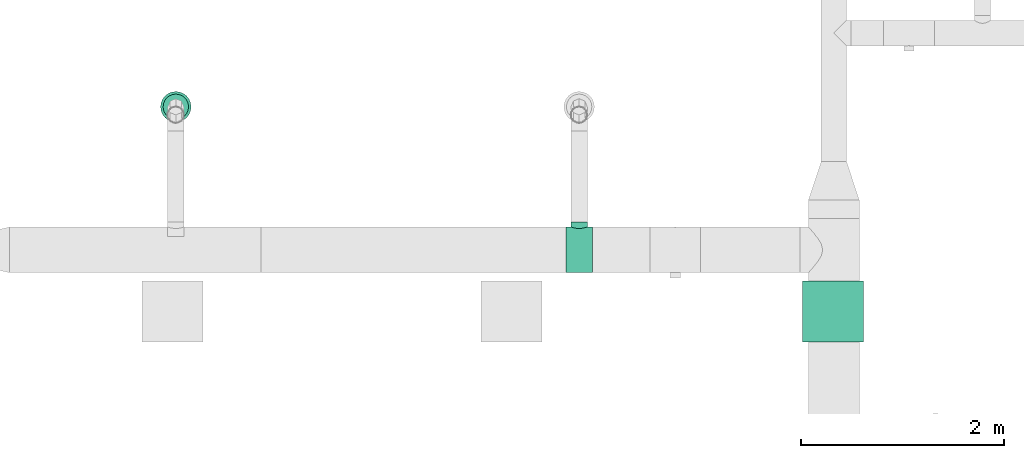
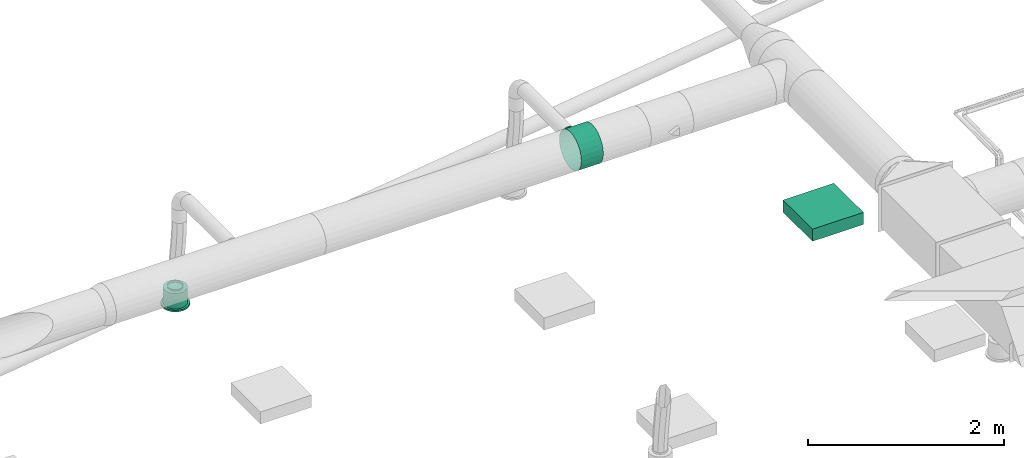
# One storey, part 164 of 374: 1 distribution element, 1 flow fitting, 1 flow terminal.
"""IFC2X3 building model written with IfcOpenShell, lengths in metres."""

import ifcopenshell
import ifcopenshell.guid

model = None  # the IFC model being written
_history = None  # IfcOwnerHistory: only IFC2X3 demands one
_inside = {}  # id of a spatial element -> (the spatial element, [elements in it])
_under = {}  # id of a project, library or spatial element -> (it, [spatial elements below it])
_declared = {}  # id of a project -> (the project, [libraries it declares])
_typed = {}  # id of a type object -> (the type object, [elements of that type])
_made_of = {}  # id of a material, layer set ... -> (it, [elements and type objects made of it])


def new_model(schema):
    """Start an empty IFC model of exactly this schema.

    Asked for "IFC4X3", IfcOpenShell would pick the latest addendum, in which some entities
    have other attributes; the version numbers below select the first issue.
    IFC2X3 requires an IfcOwnerHistory on every rooted entity: one is made here for all.
    """
    global model, _history
    if schema == "IFC4X3":
        model = ifcopenshell.file(schema_version=(4, 3, 0, 0))
    else:
        model = ifcopenshell.file(schema=schema)
    _inside.clear()
    _under.clear()
    _declared.clear()
    _typed.clear()
    _made_of.clear()
    _history = None
    if model.schema == "IFC2X3":
        org = make("IfcOrganization", Name="unknown")
        user = make(
            "IfcPersonAndOrganization",
            ThePerson=make("IfcPerson", FamilyName="unknown"),
            TheOrganization=org,
        )
        app = make(
            "IfcApplication",
            ApplicationDeveloper=org,
            Version="unknown",
            ApplicationFullName="unknown",
            ApplicationIdentifier="unknown",
        )
        _history = make(
            "IfcOwnerHistory",
            OwningUser=user,
            OwningApplication=app,
            ChangeAction="ADDED",
            CreationDate=0,
        )
    return model


def make(cls, **values):
    """One entity of the class cls with the attributes given. An attribute that is None is left unset."""
    return model.create_entity(
        cls, **{name: value for name, value in values.items() if value is not None}
    )


def rooted(cls, **values):
    """An entity with a GlobalId (a new one), such as an element, a storey or a relation."""
    return make(cls, GlobalId=ifcopenshell.guid.new(), OwnerHistory=_history, **values)


def si_unit(unit_type, name, prefix=None):
    """IfcSIUnit, for example si_unit("LENGTHUNIT", "METRE", prefix="MILLI")."""
    return make("IfcSIUnit", UnitType=unit_type, Prefix=prefix, Name=name)


def assignment(units):
    """IfcUnitAssignment: the units of a project."""
    return None if units is None else make("IfcUnitAssignment", Units=units)


def point(xyz):
    """IfcCartesianPoint."""
    return None if xyz is None else make("IfcCartesianPoint", Coordinates=xyz)


def direction(xyz):
    """IfcDirection."""
    return None if xyz is None else make("IfcDirection", DirectionRatios=xyz)


def frame(location, z_axis=None, x_axis=None):
    """IfcAxis2Placement3D, a coordinate frame: its origin and axes. An axis left out is left unset."""
    return make(
        "IfcAxis2Placement3D",
        Location=point(location),
        Axis=direction(z_axis),
        RefDirection=direction(x_axis),
    )


def frame_2d(location, x_axis=None):
    """IfcAxis2Placement2D, a coordinate frame in the plane: its origin and x axis."""
    return make(
        "IfcAxis2Placement2D", Location=point(location), RefDirection=direction(x_axis)
    )


def origin():
    """The frame at (0, 0, 0) with its axes left unset."""
    return frame((0.0, 0.0, 0.0))


def place(relative_to, where):
    """IfcLocalPlacement: puts the frame where relative to a parent placement (None: the world)."""
    return make(
        "IfcLocalPlacement", PlacementRelTo=relative_to, RelativePlacement=where
    )


def context(
    kind, dimensions, precision=None, world=None, true_north=None, identifier=None
):
    """IfcGeometricRepresentationContext, for example the 3D "Model" context."""
    return make(
        "IfcGeometricRepresentationContext",
        ContextIdentifier=identifier,
        ContextType=kind,
        CoordinateSpaceDimension=dimensions,
        Precision=precision,
        WorldCoordinateSystem=world,
        TrueNorth=true_north,
    )


def subcontext(parent, identifier, kind, view, scale=None):
    """IfcGeometricRepresentationSubContext, for example "Body" below "Model"."""
    return make(
        "IfcGeometricRepresentationSubContext",
        ContextIdentifier=identifier,
        ContextType=kind,
        ParentContext=parent,
        TargetScale=scale,
        TargetView=view,
    )


def project(units=None, contexts=None):
    """IfcProject with its units and contexts."""
    return rooted(
        "IfcProject",
        Name="project",
        RepresentationContexts=contexts,
        UnitsInContext=assignment(units),
    )


def spatial(cls, under=None, at=None, **own):
    """A site, building, storey or space (cls), placed at a placement, below another one or the project."""
    s = rooted(cls, ObjectPlacement=at, **own)
    if under is not None:
        _under.setdefault(under.id(), (under, []))[1].append(s)
    return s


def profile(cls, at=None, kind="AREA", **sizes):
    """A parametric profile (cls). Its sizes go by their IFC names, for example OverallWidth=200.0."""
    return make(cls, ProfileType=kind, Position=at, **sizes)


def rectangle(**sizes):
    """IfcRectangleProfileDef."""
    return profile("IfcRectangleProfileDef", **sizes)


def extrude(swept, where, along, depth):
    """IfcExtrudedAreaSolid: the profile swept, set in the frame where, extruded along a direction by depth."""
    return make(
        "IfcExtrudedAreaSolid",
        SweptArea=swept,
        Position=where,
        ExtrudedDirection=direction(along),
        Depth=depth,
    )


def faces_of(points, faces, orient=None, outer=None):
    """IfcFace entities. A face is a list of loops; a loop is a list of indices into points, from 0.

    orient and outer hold one flag for each loop. By default every Orientation is true, the
    first loop of a face is its IfcFaceOuterBound and the others are IfcFaceBound.
    """
    made = []
    for i, loops in enumerate(faces):
        bounds = []
        for j, loop in enumerate(loops):
            is_outer = j == 0 if outer is None else outer[i][j]
            bounds.append(
                make(
                    "IfcFaceOuterBound" if is_outer else "IfcFaceBound",
                    Bound=make("IfcPolyLoop", Polygon=[points[k] for k in loop]),
                    Orientation=True if orient is None else orient[i][j],
                )
            )
        made.append(make("IfcFace", Bounds=bounds))
    return made


def open_shell(faces, orient=None, outer=None):
    """The faces of one IfcOpenShell. surface_model builds it on its shared points."""
    return ("IfcOpenShell", faces, orient, outer)


def surface_model(cls, points, shells):
    """IfcFaceBasedSurfaceModel or IfcShellBasedSurfaceModel (cls): surfaces that need not close."""
    shared = [point(p) for p in points]
    made = [make(c, CfsFaces=faces_of(shared, fs, o, b)) for c, fs, o, b in shells]
    if cls == "IfcFaceBasedSurfaceModel":
        return make(cls, FbsmFaces=made)
    return make(cls, SbsmBoundary=made)


def shape(context_of_items, identifier, shape_type, items):
    """IfcShapeRepresentation: the items that make up one representation, for example the "Body"."""
    return make(
        "IfcShapeRepresentation",
        ContextOfItems=context_of_items,
        RepresentationIdentifier=identifier,
        RepresentationType=shape_type,
        Items=items,
    )


def source(mapping_origin, context_of_items, identifier, shape_type, items):
    """IfcRepresentationMap: a shape defined once, which mapped items show again and again."""
    return make(
        "IfcRepresentationMap",
        MappingOrigin=mapping_origin,
        MappedRepresentation=shape(context_of_items, identifier, shape_type, items),
    )


def transform(
    local_origin,
    x_axis=None,
    y_axis=None,
    z_axis=None,
    scale=None,
    scale2=None,
    scale3=None,
    uniform=True,
):
    """IfcCartesianTransformationOperator3D, or its non-uniform kind. x_axis, y_axis, z_axis: its Axis1, 2, 3."""
    if uniform:
        return make(
            "IfcCartesianTransformationOperator3D",
            Axis1=direction(x_axis),
            Axis2=direction(y_axis),
            LocalOrigin=point(local_origin),
            Scale=scale,
            Axis3=direction(z_axis),
        )
    return make(
        "IfcCartesianTransformationOperator3DnonUniform",
        Axis1=direction(x_axis),
        Axis2=direction(y_axis),
        LocalOrigin=point(local_origin),
        Scale=scale,
        Axis3=direction(z_axis),
        Scale2=scale2,
        Scale3=scale3,
    )


def mapped(mapping_source, mapping_target):
    """IfcMappedItem: shows the shape of a source again, moved by a transform."""
    return make(
        "IfcMappedItem", MappingSource=mapping_source, MappingTarget=mapping_target
    )


def made_of(thing, what):
    """Note that an element or type object is made of a material, layer set ...; save() writes the relation."""
    if what is not None:
        _made_of.setdefault(what.id(), (what, []))[1].append(thing)
    return thing


def element(
    cls,
    number,
    at=None,
    inside=None,
    cuts=None,
    type_object=None,
    material=None,
    context=None,
    identifier="Body",
    shape_type=None,
    held_by="IfcProductDefinitionShape",
    body=None,
    shapes=None,
    **own,
):
    """One element of the class cls, such as IfcWall. Its Tag is "e" and its number.

    at: its placement. inside: the storey or other place that contains it. cuts: it is an
    opening in that element (IfcRelVoidsElement). A single representation is given by context,
    identifier, shape_type and body (its items); several are given by shapes. held_by: the class
    of the entity that holds the representations. save() writes the other relations.
    """
    e = rooted(cls, Tag="e%d" % number, ObjectPlacement=at, **own)
    if body is not None:
        shapes = [shape(context, identifier, shape_type, body)]
    if shapes is not None:
        e.Representation = make(held_by, Representations=shapes)
    if inside is not None:
        _inside.setdefault(inside.id(), (inside, []))[1].append(e)
    if cuts is not None:
        rooted(
            "IfcRelVoidsElement", RelatingBuildingElement=cuts, RelatedOpeningElement=e
        )
    if type_object is not None:
        _typed.setdefault(type_object.id(), (type_object, []))[1].append(e)
    return made_of(e, material)


def aggregate(whole, parts):
    """IfcRelAggregates: a whole, such as a stair, and the parts it consists of."""
    return rooted("IfcRelAggregates", RelatingObject=whole, RelatedObjects=parts)


def save(model, path):
    """Write the relations noted so far, then the file.

    IfcRelAggregates (storeys below a building ...), IfcRelContainedInSpatialStructure (elements
    in a storey), IfcRelDefinesByType, IfcRelAssociatesMaterial and IfcRelDeclares: one each for
    every whole, place, type object, material and project.
    """
    for whole, parts in _under.values():
        aggregate(whole, parts)
    for where, things in _inside.values():
        rooted(
            "IfcRelContainedInSpatialStructure",
            RelatedElements=things,
            RelatingStructure=where,
        )
    for kind, things in _typed.values():
        rooted("IfcRelDefinesByType", RelatedObjects=things, RelatingType=kind)
    for what, things in _made_of.values():
        rooted("IfcRelAssociatesMaterial", RelatedObjects=things, RelatingMaterial=what)
    for by, libraries in _declared.values():
        rooted("IfcRelDeclares", RelatingContext=by, RelatedDefinitions=libraries)
    model.write(path)


model = new_model("IFC2X3")

# Units and contexts
model_context = context("Model", 3, precision=1e-05, world=origin(), true_north=direction((-0.4480736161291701, 0.8939966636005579)))
body_context = subcontext(model_context, "Body", "Model", "MODEL_VIEW")
ifc_project = project(units=[si_unit("LENGTHUNIT", "METRE"), si_unit("AREAUNIT", "SQUARE_METRE"), si_unit("VOLUMEUNIT", "CUBIC_METRE"), si_unit("PLANEANGLEUNIT", "RADIAN"), si_unit("THERMODYNAMICTEMPERATUREUNIT", "KELVIN"), si_unit("MASSUNIT", "GRAM", prefix="KILO"), si_unit("TIMEUNIT", "SECOND")], contexts=[model_context])

# Site, building, storey
site_placement = place(None, origin())
site = spatial("IfcSite", under=ifc_project, at=site_placement, Name="Site 1", CompositionType="ELEMENT")
building_placement = place(site_placement, origin())
building = spatial("IfcBuilding", under=site, at=building_placement, Name="Undefined", CompositionType="ELEMENT")
storey_placement = place(building_placement, origin())
storey = spatial("IfcBuildingStorey", under=building, at=storey_placement, Name="Rez de chauss\x8ee", CompositionType="ELEMENT", Elevation=0.0)

# Flow terminal
shared_shape_1 = source(origin(), body_context, "Body", "SurfaceModel", [
    surface_model("IfcFaceBasedSurfaceModel", [(0.0, 0.0, 0.0), (0.03915785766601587, 0.0, 0.0), (0.03915785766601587, 0.020000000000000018, 0.0), (3.552713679e-15, 0.020000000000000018, 0.0), (0.07698144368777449, 0.0, -0.010134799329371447), (0.07698144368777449, 0.020000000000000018, -0.010134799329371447), (0.11089314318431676, 0.0, -0.02971372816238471), (0.11089314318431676, 0.020000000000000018, -0.02971372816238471), (0.13858192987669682, 0.0, -0.05740251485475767), (0.13858192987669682, 0.020000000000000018, -0.05740251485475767), (0.15816085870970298, 0.0, -0.09131421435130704), (0.15816085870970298, 0.020000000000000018, -0.09131421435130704), (0.16829565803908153, 0.0, -0.12913780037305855), (0.16829565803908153, 0.020000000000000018, -0.12913780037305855), (0.16829565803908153, 0.0, -0.16829565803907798), (0.16829565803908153, 0.020000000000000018, -0.16829565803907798), (0.15816085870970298, 0.0, -0.20611924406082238), (0.15816085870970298, 0.020000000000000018, -0.20611924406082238), (0.13858192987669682, 0.0, -0.24003094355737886), (0.13858192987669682, 0.020000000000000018, -0.24003094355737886), (0.11089314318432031, 0.0, -0.2677197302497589), (0.11089314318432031, 0.020000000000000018, -0.2677197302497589), (0.07698144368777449, 0.0, -0.2872986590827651), (0.07698144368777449, 0.020000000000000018, -0.2872986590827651), (0.039157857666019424, 0.0, -0.29743345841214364), (0.039157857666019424, 0.020000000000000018, -0.29743345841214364), (3.552713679e-15, 0.0, -0.29743345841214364), (3.552713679e-15, 0.020000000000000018, -0.29743345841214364), (-0.03782358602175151, 0.0, -0.2872986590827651), (-0.03782358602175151, 0.020000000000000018, -0.2872986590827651), (-0.07173528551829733, 0.0, -0.2677197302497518), (-0.07173528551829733, 0.020000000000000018, -0.2677197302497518), (-0.0994240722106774, 0.0, -0.24003094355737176), (-0.0994240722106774, 0.020000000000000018, -0.24003094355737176), (-0.11900300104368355, 0.0, -0.2061192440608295), (-0.11900300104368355, 0.020000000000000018, -0.2061192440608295), (-0.1291378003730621, 0.0, -0.16829565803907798), (-0.1291378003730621, 0.020000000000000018, -0.16829565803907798), (-0.1291378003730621, 0.0, -0.12913780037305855), (-0.1291378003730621, 0.020000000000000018, -0.12913780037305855), (-0.11900300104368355, 0.0, -0.09131421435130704), (-0.11900300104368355, 0.020000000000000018, -0.09131421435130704), (-0.0994240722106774, 0.0, -0.05740251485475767), (-0.0994240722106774, 0.020000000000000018, -0.05740251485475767), (-0.07173528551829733, 0.0, -0.029713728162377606), (-0.07173528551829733, 0.020000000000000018, -0.029713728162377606), (-0.03782358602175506, 0.0, -0.010134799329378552), (-0.03782358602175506, 0.020000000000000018, -0.010134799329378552), (0.019578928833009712, 0.0, -0.14871672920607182), (0.019578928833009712, 0.020000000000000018, -0.14871672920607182), (0.003263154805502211, 0.020000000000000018, -0.02478612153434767), (0.035894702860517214, 0.020000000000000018, -0.02478612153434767), (0.035894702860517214, 0.20999999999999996, -0.02478612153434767), (0.003263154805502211, 0.20999999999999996, -0.02478612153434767), (0.06741435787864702, 0.020000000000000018, -0.033231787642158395), (0.06741435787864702, 0.20999999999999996, -0.033231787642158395), (0.0956741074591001, 0.020000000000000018, -0.04954756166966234), (0.0956741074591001, 0.20999999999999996, -0.04954756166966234), (0.11874809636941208, 0.020000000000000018, -0.07262155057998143), (0.11874809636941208, 0.20999999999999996, -0.07262155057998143), (0.13506387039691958, 0.020000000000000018, -0.10088130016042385), (0.13506387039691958, 0.20999999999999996, -0.10088130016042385), (0.1435095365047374, 0.020000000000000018, -0.13240095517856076), (0.1435095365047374, 0.20999999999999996, -0.13240095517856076), (0.1435095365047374, 0.020000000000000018, -0.16503250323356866), (0.1435095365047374, 0.20999999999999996, -0.16503250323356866), (0.13506387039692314, 0.020000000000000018, -0.19655215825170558), (0.13506387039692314, 0.20999999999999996, -0.19655215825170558), (0.11874809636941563, 0.020000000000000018, -0.2248119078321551), (0.11874809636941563, 0.20999999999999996, -0.2248119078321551), (0.09567410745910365, 0.020000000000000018, -0.24788589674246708), (0.09567410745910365, 0.20999999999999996, -0.24788589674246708), (0.06741435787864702, 0.020000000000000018, -0.26420167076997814), (0.06741435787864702, 0.20999999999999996, -0.26420167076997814), (0.035894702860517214, 0.020000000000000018, -0.27264733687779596), (0.035894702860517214, 0.20999999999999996, -0.27264733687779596), (0.0032631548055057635, 0.020000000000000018, -0.27264733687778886), (0.0032631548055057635, 0.20999999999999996, -0.27264733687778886), (-0.028256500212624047, 0.020000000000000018, -0.26420167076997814), (-0.028256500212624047, 0.20999999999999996, -0.26420167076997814), (-0.05651624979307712, 0.020000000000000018, -0.2478858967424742), (-0.05651624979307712, 0.20999999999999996, -0.2478858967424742), (-0.07959023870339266, 0.020000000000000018, -0.2248119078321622), (-0.07959023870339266, 0.20999999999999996, -0.2248119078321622), (-0.09590601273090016, 0.020000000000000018, -0.19655215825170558), (-0.09590601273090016, 0.20999999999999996, -0.19655215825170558), (-0.10435167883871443, 0.020000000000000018, -0.16503250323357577), (-0.10435167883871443, 0.20999999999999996, -0.16503250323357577), (-0.10435167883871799, 0.020000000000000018, -0.13240095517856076), (-0.10435167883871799, 0.20999999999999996, -0.13240095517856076), (-0.09590601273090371, 0.020000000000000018, -0.10088130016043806), (-0.09590601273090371, 0.20999999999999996, -0.10088130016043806), (-0.07959023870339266, 0.020000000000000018, -0.07262155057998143), (-0.07959023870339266, 0.20999999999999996, -0.07262155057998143), (-0.056516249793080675, 0.020000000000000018, -0.04954756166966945), (-0.056516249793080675, 0.20999999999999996, -0.04954756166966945), (-0.028256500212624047, 0.020000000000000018, -0.033231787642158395), (-0.028256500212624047, 0.20999999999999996, -0.033231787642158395), (0.019578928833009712, 0.20999999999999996, -0.14871672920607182), (0.009136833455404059, 0.20999999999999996, -0.06940114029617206), (0.030021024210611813, 0.20999999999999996, -0.06940114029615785), (0.030021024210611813, 0.22999999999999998, -0.06940114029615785), (0.009136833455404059, 0.22999999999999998, -0.06940114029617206), (0.05019360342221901, 0.20999999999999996, -0.07480636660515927), (0.05019360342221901, 0.22999999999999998, -0.07480636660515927), (0.06827984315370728, 0.20999999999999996, -0.08524846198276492), (0.06827984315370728, 0.22999999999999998, -0.08524846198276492), (0.0830471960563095, 0.20999999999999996, -0.10001581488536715), (0.0830471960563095, 0.22999999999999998, -0.10001581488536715), (0.0934892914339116, 0.20999999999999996, -0.11810205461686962), (0.0934892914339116, 0.22999999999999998, -0.11810205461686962), (0.09889451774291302, 0.20999999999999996, -0.13827463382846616), (0.09889451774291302, 0.22999999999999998, -0.13827463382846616), (0.09889451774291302, 0.20999999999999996, -0.15915882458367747), (0.09889451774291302, 0.22999999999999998, -0.15915882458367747), (0.09348929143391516, 0.20999999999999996, -0.179331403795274), (0.09348929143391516, 0.22999999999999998, -0.179331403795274), (0.0830471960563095, 0.20999999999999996, -0.19741764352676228), (0.0830471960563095, 0.22999999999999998, -0.19741764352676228), (0.06827984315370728, 0.20999999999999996, -0.2121849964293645), (0.06827984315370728, 0.22999999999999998, -0.2121849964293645), (0.05019360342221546, 0.20999999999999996, -0.22262709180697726), (0.05019360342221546, 0.22999999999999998, -0.22262709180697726), (0.030021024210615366, 0.20999999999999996, -0.22803231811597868), (0.030021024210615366, 0.22999999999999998, -0.22803231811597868), (0.009136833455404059, 0.20999999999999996, -0.22803231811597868), (0.009136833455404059, 0.22999999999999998, -0.22803231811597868), (-0.011035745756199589, 0.20999999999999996, -0.22262709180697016), (-0.011035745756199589, 0.22999999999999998, -0.22262709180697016), (-0.0291219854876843, 0.20999999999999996, -0.2121849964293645), (-0.0291219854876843, 0.22999999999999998, -0.2121849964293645), (-0.043889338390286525, 0.20999999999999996, -0.19741764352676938), (-0.043889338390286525, 0.22999999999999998, -0.19741764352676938), (-0.05433143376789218, 0.20999999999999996, -0.17933140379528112), (-0.05433143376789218, 0.22999999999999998, -0.17933140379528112), (-0.05973666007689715, 0.20999999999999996, -0.15915882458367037), (-0.05973666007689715, 0.22999999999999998, -0.15915882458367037), (-0.0597366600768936, 0.20999999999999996, -0.13827463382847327), (-0.0597366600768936, 0.22999999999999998, -0.13827463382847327), (-0.05433143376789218, 0.20999999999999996, -0.11810205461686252), (-0.05433143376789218, 0.22999999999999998, -0.11810205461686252), (-0.043889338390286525, 0.20999999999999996, -0.10001581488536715), (-0.043889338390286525, 0.22999999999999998, -0.10001581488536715), (-0.02912198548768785, 0.20999999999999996, -0.08524846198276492), (-0.02912198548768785, 0.22999999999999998, -0.08524846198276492), (-0.011035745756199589, 0.20999999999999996, -0.07480636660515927), (-0.011035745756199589, 0.22999999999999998, -0.07480636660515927)], [open_shell([[[0, 1, 2, 3]], [[1, 4, 5, 2]], [[4, 6, 7, 5]], [[6, 8, 9, 7]], [[8, 10, 11, 9]], [[10, 12, 13, 11]], [[12, 14, 15, 13]], [[14, 16, 17, 15]], [[16, 18, 19, 17]], [[18, 20, 21, 19]], [[20, 22, 23, 21]], [[22, 24, 25, 23]], [[24, 26, 27, 25]], [[26, 28, 29, 27]], [[28, 30, 31, 29]], [[30, 32, 33, 31]], [[32, 34, 35, 33]], [[34, 36, 37, 35]], [[36, 38, 39, 37]], [[38, 40, 41, 39]], [[40, 42, 43, 41]], [[42, 44, 45, 43]], [[44, 46, 47, 45]], [[46, 0, 3, 47]], [[48, 1, 0]], [[48, 4, 1]], [[48, 6, 4]], [[48, 8, 6]], [[48, 10, 8]], [[48, 12, 10]], [[48, 14, 12]], [[48, 16, 14]], [[48, 18, 16]], [[48, 20, 18]], [[48, 22, 20]], [[48, 24, 22]], [[48, 26, 24]], [[48, 28, 26]], [[48, 30, 28]], [[48, 32, 30]], [[48, 34, 32]], [[48, 36, 34]], [[48, 38, 36]], [[48, 40, 38]], [[48, 42, 40]], [[48, 44, 42]], [[48, 46, 44]], [[48, 0, 46]], [[49, 47, 3]], [[49, 45, 47]], [[49, 43, 45]], [[49, 41, 43]], [[49, 39, 41]], [[49, 37, 39]], [[49, 35, 37]], [[49, 33, 35]], [[49, 31, 33]], [[49, 29, 31]], [[49, 27, 29]], [[49, 25, 27]], [[49, 23, 25]], [[49, 21, 23]], [[49, 19, 21]], [[49, 17, 19]], [[49, 15, 17]], [[49, 13, 15]], [[49, 11, 13]], [[49, 9, 11]], [[49, 7, 9]], [[49, 5, 7]], [[49, 2, 5]], [[49, 3, 2]], [[50, 51, 52, 53]], [[51, 54, 55, 52]], [[54, 56, 57, 55]], [[56, 58, 59, 57]], [[58, 60, 61, 59]], [[60, 62, 63, 61]], [[62, 64, 65, 63]], [[64, 66, 67, 65]], [[66, 68, 69, 67]], [[68, 70, 71, 69]], [[70, 72, 73, 71]], [[72, 74, 75, 73]], [[74, 76, 77, 75]], [[76, 78, 79, 77]], [[78, 80, 81, 79]], [[80, 82, 83, 81]], [[82, 84, 85, 83]], [[84, 86, 87, 85]], [[86, 88, 89, 87]], [[88, 90, 91, 89]], [[90, 92, 93, 91]], [[92, 94, 95, 93]], [[94, 96, 97, 95]], [[96, 50, 53, 97]], [[49, 51, 50]], [[49, 54, 51]], [[49, 56, 54]], [[49, 58, 56]], [[49, 60, 58]], [[49, 62, 60]], [[49, 64, 62]], [[49, 66, 64]], [[49, 68, 66]], [[49, 70, 68]], [[49, 72, 70]], [[49, 74, 72]], [[49, 76, 74]], [[49, 78, 76]], [[49, 80, 78]], [[49, 82, 80]], [[49, 84, 82]], [[49, 86, 84]], [[49, 88, 86]], [[49, 90, 88]], [[49, 92, 90]], [[49, 94, 92]], [[49, 96, 94]], [[49, 50, 96]], [[98, 97, 53]], [[98, 95, 97]], [[98, 93, 95]], [[98, 91, 93]], [[98, 89, 91]], [[98, 87, 89]], [[98, 85, 87]], [[98, 83, 85]], [[98, 81, 83]], [[98, 79, 81]], [[98, 77, 79]], [[98, 75, 77]], [[98, 73, 75]], [[98, 71, 73]], [[98, 69, 71]], [[98, 67, 69]], [[98, 65, 67]], [[98, 63, 65]], [[98, 61, 63]], [[98, 59, 61]], [[98, 57, 59]], [[98, 55, 57]], [[98, 52, 55]], [[98, 53, 52]], [[99, 100, 101, 102]], [[100, 103, 104, 101]], [[103, 105, 106, 104]], [[105, 107, 108, 106]], [[107, 109, 110, 108]], [[109, 111, 112, 110]], [[111, 113, 114, 112]], [[113, 115, 116, 114]], [[115, 117, 118, 116]], [[117, 119, 120, 118]], [[119, 121, 122, 120]], [[121, 123, 124, 122]], [[123, 125, 126, 124]], [[125, 127, 128, 126]], [[127, 129, 130, 128]], [[129, 131, 132, 130]], [[131, 133, 134, 132]], [[133, 135, 136, 134]], [[135, 137, 138, 136]], [[137, 139, 140, 138]], [[139, 141, 142, 140]], [[141, 143, 144, 142]], [[143, 145, 146, 144]], [[145, 99, 102, 146]]])]),
])
flow_terminal_placement = place(storey_placement, origin())
element("IfcFlowTerminal", 1, at=flow_terminal_placement, inside=storey, Name="Air diffuseur - bouche", ObjectType="Air diffuseur - bouche", context=body_context, shape_type="MappedRepresentation", body=[
    mapped(shared_shape_1, transform((45.465565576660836, 21.783321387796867, 2.38), x_axis=(0.9914448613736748, 0.13052619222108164, 0.0), y_axis=(0.0, 0.0, 1.0), z_axis=(0.13052619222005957, -0.9914448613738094, 0.0))),
])

# Flow fitting
shared_shape_2 = source(origin(), body_context, "Body", "SurfaceModel", [
    surface_model("IfcFaceBasedSurfaceModel", [(0.0, 0.05873678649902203, -2.77555756e-16), (0.0, 0.0, 0.0), (0.2599999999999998, -7.105427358e-15, 0.0), (0.26000000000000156, 0.05873678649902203, -2.77555756e-16), (0.0, -0.05673537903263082, -0.015202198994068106), (0.26000000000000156, -0.05673537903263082, -0.015202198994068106), (0.0, -0.10760292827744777, -0.044570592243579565), (0.26000000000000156, -0.10760292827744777, -0.044570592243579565), (0.0, -0.14913610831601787, -0.08610377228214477), (0.26000000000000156, -0.14913610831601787, -0.08610377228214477), (0.0, -0.1785045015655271, -0.13697132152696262), (0.26000000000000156, -0.1785045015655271, -0.13697132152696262), (0.0, -0.19370670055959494, -0.1937067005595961), (0.26000000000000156, -0.19370670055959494, -0.1937067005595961), (0.0, -0.19370670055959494, -0.252443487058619), (0.26000000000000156, -0.19370670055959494, -0.252443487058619), (0.0, -0.1785045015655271, -0.30917886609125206), (0.26000000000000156, -0.1785045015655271, -0.30917886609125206), (0.0, -0.14913610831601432, -0.36004641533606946), (0.26000000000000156, -0.14913610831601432, -0.36004641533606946), (0.0, -0.10760292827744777, -0.40157959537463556), (0.26000000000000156, -0.10760292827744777, -0.40157959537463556), (0.0, -0.05673537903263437, -0.43094798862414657), (0.26000000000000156, -0.05673537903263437, -0.43094798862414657), (0.0, 0.0, -0.4461501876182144), (0.26000000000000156, 0.0, -0.4461501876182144), (0.0, 0.058736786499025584, -0.4461501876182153), (0.26000000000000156, 0.058736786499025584, -0.4461501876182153), (0.0, 0.1154721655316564, -0.430947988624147), (0.26000000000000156, 0.1154721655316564, -0.430947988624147), (0.0, 0.16633971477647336, -0.4015795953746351), (0.26000000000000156, 0.16633971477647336, -0.4015795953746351), (0.0, 0.20787289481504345, -0.3600464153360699), (0.26000000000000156, 0.20787289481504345, -0.3600464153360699), (0.0, 0.23724128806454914, -0.3091788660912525), (0.26000000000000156, 0.23724128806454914, -0.3091788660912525), (0.0, 0.25244348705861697, -0.25244348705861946), (0.26000000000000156, 0.25244348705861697, -0.25244348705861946), (0.0, 0.25244348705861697, -0.1937067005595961), (0.26000000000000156, 0.25244348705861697, -0.1937067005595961), (0.0, 0.2372412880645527, -0.13697132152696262), (0.26000000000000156, 0.2372412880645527, -0.13697132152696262), (0.0, 0.2078728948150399, -0.08610377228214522), (0.26000000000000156, 0.2078728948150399, -0.08610377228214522), (0.0, 0.16633971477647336, -0.044570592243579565), (0.26000000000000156, 0.16633971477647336, -0.044570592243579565), (0.0, 0.11547216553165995, -0.01520219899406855), (0.26000000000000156, 0.11547216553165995, -0.01520219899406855), (0.21000000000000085, 0.25244348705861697, -0.25244348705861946), (0.2072740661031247, 0.24879430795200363, -0.2728472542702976), (0.2072740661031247, 0.29931311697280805, -0.27949818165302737), (0.21000000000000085, 0.30201573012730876, -0.2589697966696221), (0.19928203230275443, 0.24366900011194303, -0.29163346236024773), (0.19928203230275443, 0.2967946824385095, -0.29862759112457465), (0.18656854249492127, 0.23789445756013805, -0.30758474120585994), (0.18656854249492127, 0.2946320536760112, -0.3150543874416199), (0.1700000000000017, 0.23256164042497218, -0.31970585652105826), (0.1700000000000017, 0.2929726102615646, -0.32765911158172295), (0.15070552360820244, 0.22878854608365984, -0.32727011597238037), (0.15070552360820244, 0.29192944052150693, -0.3355827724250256), (0.129999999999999, 0.22742458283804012, -0.32984000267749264), (0.129999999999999, 0.29157363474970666, -0.3382853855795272), (0.10929447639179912, 0.22878854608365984, -0.32727011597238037), (0.10929447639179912, 0.29192944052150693, -0.3355827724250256), (0.08999999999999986, 0.23256164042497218, -0.31970585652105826), (0.08999999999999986, 0.2929726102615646, -0.32765911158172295), (0.07343145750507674, 0.23789445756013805, -0.30758474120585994), (0.07343145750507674, 0.2946320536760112, -0.3150543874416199), (0.06071796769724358, 0.24366900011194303, -0.29163346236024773), (0.06071796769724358, 0.2967946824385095, -0.29862759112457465), (0.05272593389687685, 0.24879430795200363, -0.2728472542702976), (0.05272593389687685, 0.29931311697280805, -0.27949818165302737), (0.05000000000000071, 0.25244348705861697, -0.25244348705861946), (0.05000000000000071, 0.30201573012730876, -0.2589697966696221), (0.05272593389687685, 0.25419953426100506, -0.2317904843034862), (0.05272593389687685, 0.30471834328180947, -0.23844141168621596), (0.06071796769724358, 0.25411109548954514, -0.21231787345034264), (0.06071796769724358, 0.3072367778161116, -0.21931200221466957), (0.07343145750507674, 0.2526618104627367, -0.19541555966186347), (0.07343145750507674, 0.30939940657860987, -0.20288520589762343), (0.08999999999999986, 0.250647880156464, -0.18232722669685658), (0.08999999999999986, 0.31105884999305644, -0.19028048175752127), (0.10929447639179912, 0.24896112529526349, -0.1740441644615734), (0.10929447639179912, 0.3121020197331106, -0.18235682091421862), (0.129999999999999, 0.24830877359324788, -0.17120882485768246), (0.129999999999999, 0.3124578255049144, -0.17965420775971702), (0.15070552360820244, 0.24896112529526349, -0.1740441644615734), (0.15070552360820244, 0.3121020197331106, -0.18235682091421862), (0.1700000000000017, 0.250647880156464, -0.18232722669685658), (0.1700000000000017, 0.31105884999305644, -0.19028048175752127), (0.18656854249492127, 0.2526618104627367, -0.19541555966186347), (0.18656854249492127, 0.30939940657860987, -0.20288520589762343), (0.19928203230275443, 0.25411109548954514, -0.21231787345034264), (0.19928203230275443, 0.3072367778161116, -0.21931200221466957), (0.2072740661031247, 0.25419953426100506, -0.2317904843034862), (0.2072740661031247, 0.30471834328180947, -0.23844141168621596)], [open_shell([[[0, 1, 2, 3]], [[1, 4, 5, 2]], [[4, 6, 7, 5]], [[6, 8, 9, 7]], [[8, 10, 11, 9]], [[10, 12, 13, 11]], [[12, 14, 15, 13]], [[14, 16, 17, 15]], [[16, 18, 19, 17]], [[18, 20, 21, 19]], [[20, 22, 23, 21]], [[22, 24, 25, 23]], [[24, 26, 27, 25]], [[26, 28, 29, 27]], [[28, 30, 31, 29]], [[30, 32, 33, 31]], [[32, 34, 35, 33]], [[34, 36, 37, 35]], [[36, 38, 39, 37]], [[38, 40, 41, 39]], [[40, 42, 43, 41]], [[42, 44, 45, 43]], [[44, 46, 47, 45]], [[46, 0, 3, 47]], [[48, 49, 50, 51]], [[49, 52, 53, 50]], [[52, 54, 55, 53]], [[54, 56, 57, 55]], [[56, 58, 59, 57]], [[58, 60, 61, 59]], [[60, 62, 63, 61]], [[62, 64, 65, 63]], [[64, 66, 67, 65]], [[66, 68, 69, 67]], [[68, 70, 71, 69]], [[70, 72, 73, 71]], [[72, 74, 75, 73]], [[74, 76, 77, 75]], [[76, 78, 79, 77]], [[78, 80, 81, 79]], [[80, 82, 83, 81]], [[82, 84, 85, 83]], [[84, 86, 87, 85]], [[86, 88, 89, 87]], [[88, 90, 91, 89]], [[90, 92, 93, 91]], [[92, 94, 95, 93]], [[94, 48, 51, 95]]])]),
])
flow_fitting_placement = place(storey_placement, origin())
element("IfcFlowFitting", 2, at=flow_fitting_placement, inside=storey, Name="Pièce en té 90°", ObjectType="Pièce en té 90°", context=body_context, shape_type="MappedRepresentation", body=[
    mapped(shared_shape_2, transform((49.30071153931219, 20.468653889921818, 4.017333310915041), x_axis=(1.0, 0.0, 0.0), y_axis=(0.0, 0.9914448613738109, 0.1305261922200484), z_axis=(0.0, -0.1305261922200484, 0.9914448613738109))),
])

# Distribution element
distribution_element_placement = place(storey_placement, origin())
element("IfcDistributionElement", 3, at=distribution_element_placement, inside=storey, Name="Decken-Rechteckleuchte mit Rahmen AP", ObjectType="Decken-Rechteckleuchte mit Rahmen AP", context=body_context, shape_type="SweptSolid", body=[
    extrude(rectangle(XDim=0.6000000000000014, YDim=0.6000000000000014, at=frame_2d((3.552713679e-15, 0.0), x_axis=(0.0, 1.0))), frame((51.9257634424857, 19.920550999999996, 2.5500000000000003), z_axis=(0.0, 0.0, -1.0), x_axis=(1.0, 0.0, 0.0)), (0.0, 0.0, 1.0), 0.15),
])

save(model, "model.ifc")
